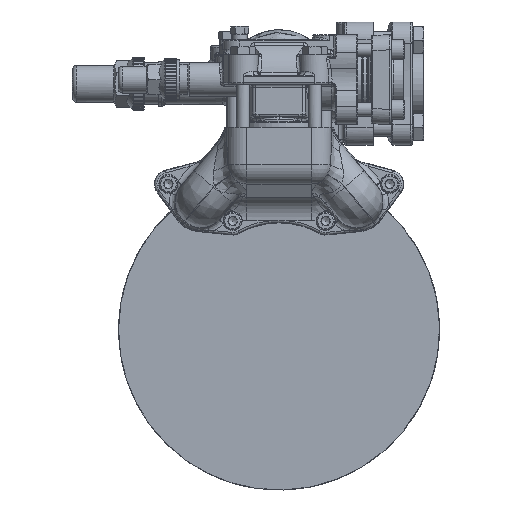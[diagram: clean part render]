
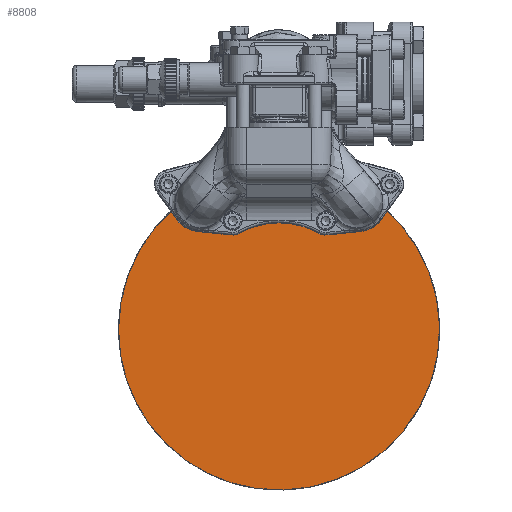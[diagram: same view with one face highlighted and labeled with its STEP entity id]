
A CAD part, left-side view. The second image highlights one B-rep face of the part: STEP entity #8808.
In plain terms, the highlighted planar face has unit normal (-1, 0, 0).
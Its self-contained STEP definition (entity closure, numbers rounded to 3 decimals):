
#7047=PLANE('',#40531);
#8808=ADVANCED_FACE('',(#11424),#7047,.F.);
#11424=FACE_OUTER_BOUND('',#13464,.T.);
#13464=EDGE_LOOP('',(#22778));
#17796=CIRCLE('',#39889,143.);
#22778=ORIENTED_EDGE('',*,*,#33065,.F.);
#29634=VERTEX_POINT('',#54940);
#33065=EDGE_CURVE('',#29634,#29634,#17796,.T.);
#39889=AXIS2_PLACEMENT_3D('',#54939,#43898,#43899);
#40531=AXIS2_PLACEMENT_3D('',#62772,#45492,#45493);
#43898=DIRECTION('',(1.,0.,0.));
#43899=DIRECTION('',(0.,1.,0.003));
#45492=DIRECTION('',(1.,0.,0.));
#45493=DIRECTION('',(0.,1.,0.003));
#54939=CARTESIAN_POINT('',(128.,0.,0.));
#54940=CARTESIAN_POINT('',(128.,142.999,0.494));
#62772=CARTESIAN_POINT('',(128.,-200.764,-223.515));
